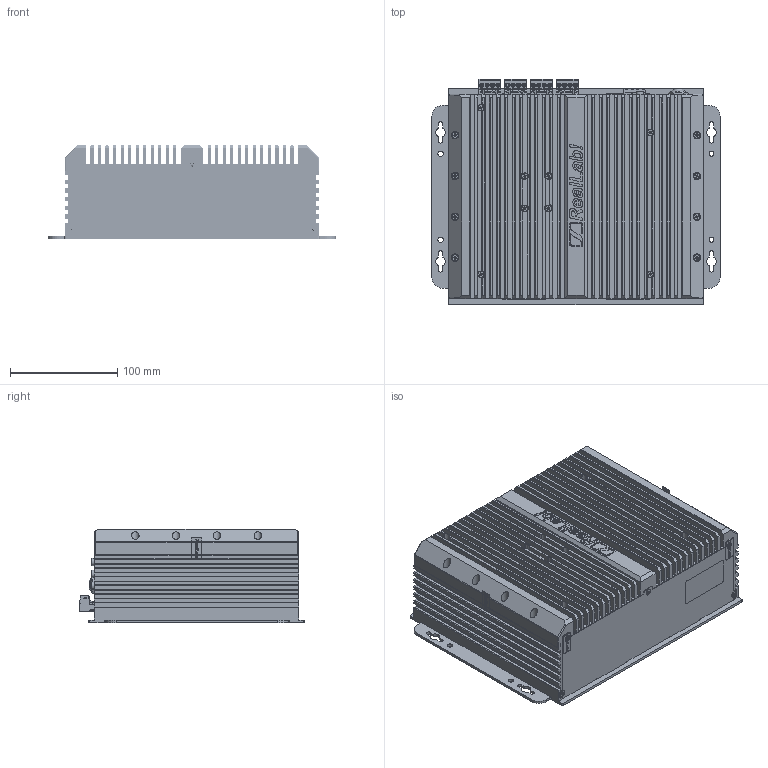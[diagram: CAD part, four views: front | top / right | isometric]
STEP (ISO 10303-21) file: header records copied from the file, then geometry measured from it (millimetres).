
FILE_DESCRIPTION(('STEP AP214'), '1');
FILE_NAME('EMB-PC-Baikal', '', ('UNSPECIFIED'), ('UNSPECIFIED'), 'C3D Converter', 'C3D Toolkit', '');
FILE_SCHEMA(('AUTOMOTIVE_DESIGN { 1 0 10303 214 3 1 1}'));
Length unit declared in the file: millimetre
Products named in the file (1): EMB-PC-Baikal
Bounding box: 268 x 209.46 x 87.15 mm (x, y, z)
Volume: 1136187.2 mm3; surface area: 610004.6 mm2
Topology: 2 solids, 31 shells, 7513 faces, 20645 edges, 13667 vertices
Faces by surface type: plane 4922, extrusion 1439, cylinder 922, cone 111, torus 91, bspline 20, sphere 8
Full cylindrical faces by diameter (mm): 2.459 x14, 2.6 x4, 3 x24, 3.2 x17, 3.5 x2, 3.95 x16, 4 x8, 4.5 x6, 4.9 x4, 4.95 x2, 5.6 x31, 6.8 x9, 7 x8, 9.5 x2, 12 x1, 12.2 x1, 13.6 x1, 14 x1
Entity records: 410231 total; most frequent: CARTESIAN_POINT 165100, ORIENTED_EDGE 40608, DIRECTION 32512, EDGE_CURVE 20304, VECTOR 15928, LINE 14489, VERTEX_POINT 13663, EDGE_LOOP 8539
